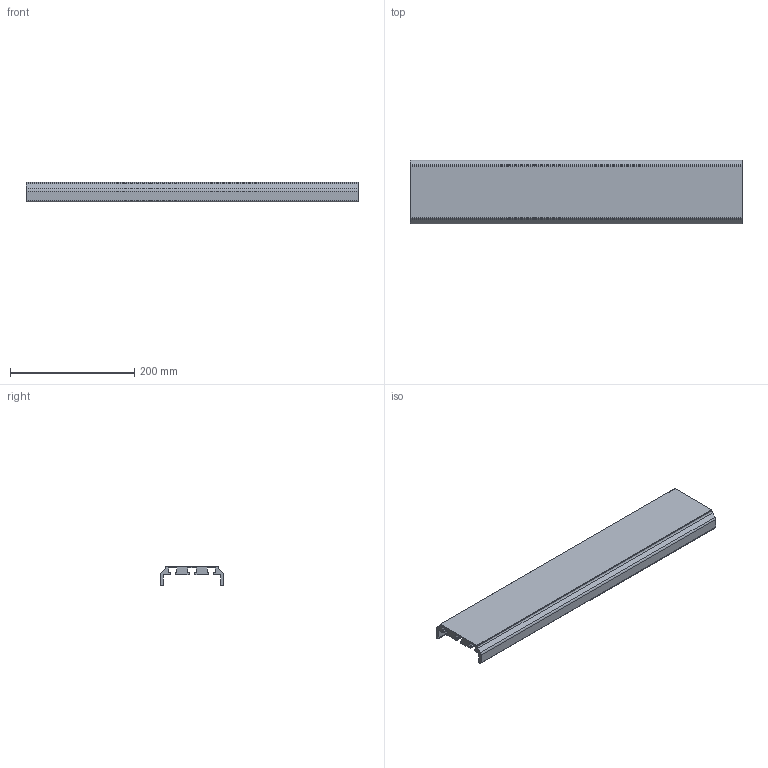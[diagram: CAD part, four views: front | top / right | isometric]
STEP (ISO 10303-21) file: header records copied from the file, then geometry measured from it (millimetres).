
FILE_DESCRIPTION (( 'STEP AP214' ), '1' );
FILE_NAME ('EPR.step', '2017-04-05T07:55:01', ( '' ), ( '' ), 'SwSTEP 2.0', 'SolidWorks 2015', '' );
FILE_SCHEMA (( 'AUTOMOTIVE_DESIGN' ));
Length unit declared in the file: millimetre
Products named in the file (1): EPR
Bounding box: 534 x 102 x 32 mm (x, y, z)
Volume: 570985.4 mm3; surface area: 205238.9 mm2
Topology: 1 solids, 1 shells, 56 faces, 162 edges, 108 vertices
Faces by surface type: plane 36, cylinder 20
Entity records: 1880 total; most frequent: CARTESIAN_POINT 327, ORIENTED_EDGE 324, DIRECTION 316, EDGE_CURVE 162, VECTOR 122, LINE 122, VERTEX_POINT 108, AXIS2_PLACEMENT_3D 97
